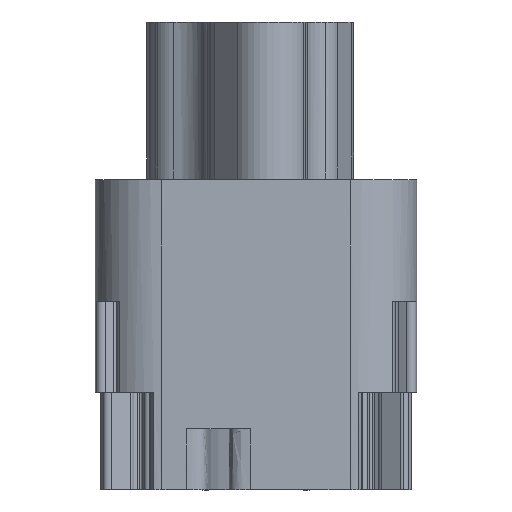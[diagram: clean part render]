
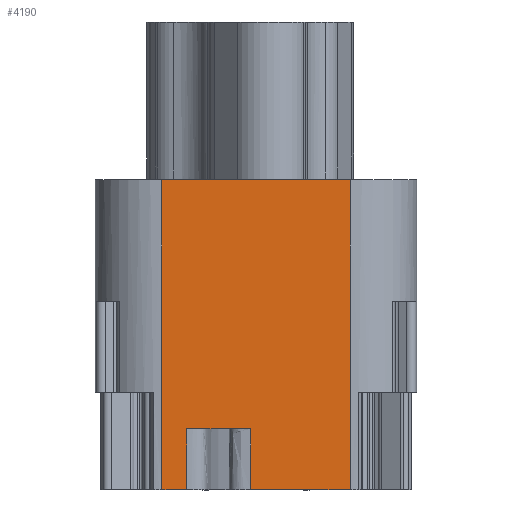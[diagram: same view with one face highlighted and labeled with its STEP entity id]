
A CAD part, top view. The second image highlights one B-rep face of the part: STEP entity #4190.
In plain terms, the highlighted planar face has unit normal (0, 0, 1).
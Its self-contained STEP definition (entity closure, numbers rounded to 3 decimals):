
#220 = FACE_OUTER_BOUND ( 'NONE', #10550, .T. ) ;
#430 = EDGE_CURVE ( 'NONE', #10977, #3288, #11350, .T. ) ;
#561 = CARTESIAN_POINT ( 'NONE',  ( 3.1, 0., 3.99 ) ) ;
#686 = VECTOR ( 'NONE', #3280, 1000. ) ;
#713 = CARTESIAN_POINT ( 'NONE',  ( -0.179, 0., 3.99 ) ) ;
#1158 = ORIENTED_EDGE ( 'NONE', *, *, #430, .T. ) ;
#1629 = CARTESIAN_POINT ( 'NONE',  ( -2.284, 0.667, 3.99 ) ) ;
#1700 = EDGE_CURVE ( 'NONE', #7493, #3288, #5730, .T. ) ;
#1898 = EDGE_CURVE ( 'NONE', #7623, #4850, #7380, .T. ) ;
#2241 = VECTOR ( 'NONE', #11040, 1000. ) ;
#2386 = VECTOR ( 'NONE', #3296, 1000. ) ;
#2415 = CARTESIAN_POINT ( 'NONE',  ( 0., 0., 3.99 ) ) ;
#2467 = CARTESIAN_POINT ( 'NONE',  ( -1.597, 2., 3.99 ) ) ;
#2483 = ORIENTED_EDGE ( 'NONE', *, *, #2953, .F. ) ;
#2667 = CARTESIAN_POINT ( 'NONE',  ( -3.1, 9., 3.99 ) ) ;
#2807 = CARTESIAN_POINT ( 'NONE',  ( -0.179, 2., 3.99 ) ) ;
#2953 = EDGE_CURVE ( 'NONE', #10977, #11436, #5834, .T. ) ;
#3280 = DIRECTION ( 'NONE',  ( -1., 0., 0. ) ) ;
#3288 = VERTEX_POINT ( 'NONE', #8010 ) ;
#3296 = DIRECTION ( 'NONE',  ( 1., 0., 0. ) ) ;
#3593 = CARTESIAN_POINT ( 'NONE',  ( -0.179, 0.667, 3.99 ) ) ;
#4045 = AXIS2_PLACEMENT_3D ( 'NONE', #10475, #8685, #5045 ) ;
#4095 = CARTESIAN_POINT ( 'NONE',  ( 3.1, 10.2, 3.99 ) ) ;
#4177 = ORIENTED_EDGE ( 'NONE', *, *, #1898, .T. ) ;
#4190 = ADVANCED_FACE ( 'NONE', ( #220 ), #10315, .T. ) ;
#4303 = VECTOR ( 'NONE', #9413, 1000. ) ;
#4386 = CARTESIAN_POINT ( 'NONE',  ( -3.1, 10.2, 3.99 ) ) ;
#4500 = LINE ( 'NONE', #2467, #2386 ) ;
#4618 = DIRECTION ( 'NONE',  ( -1., 0., 0. ) ) ;
#4646 = CARTESIAN_POINT ( 'NONE',  ( -0.179, 1.333, 3.99 ) ) ;
#4850 = VERTEX_POINT ( 'NONE', #713 ) ;
#4886 = EDGE_CURVE ( 'NONE', #8246, #7623, #4500, .T. ) ;
#5045 = DIRECTION ( 'NONE',  ( 1., 0., 0. ) ) ;
#5258 = B_SPLINE_CURVE_WITH_KNOTS ( 'NONE', 3,
 ( #10807, #1629, #8802, #5431 ),
 .UNSPECIFIED., .F., .F.,
 ( 4, 4 ),
 ( 0., 1. ),
 .UNSPECIFIED. ) ;
#5431 = CARTESIAN_POINT ( 'NONE',  ( -2.284, 2., 3.99 ) ) ;
#5730 = LINE ( 'NONE', #2415, #686 ) ;
#5827 = CARTESIAN_POINT ( 'NONE',  ( -0.179, 2., 3.99 ) ) ;
#5834 = LINE ( 'NONE', #4095, #4303 ) ;
#6091 = VERTEX_POINT ( 'NONE', #561 ) ;
#6640 = EDGE_CURVE ( 'NONE', #11436, #6091, #11214, .T. ) ;
#6668 = ORIENTED_EDGE ( 'NONE', *, *, #6640, .F. ) ;
#6894 = CARTESIAN_POINT ( 'NONE',  ( 3.1, 10.2, 3.99 ) ) ;
#7380 = B_SPLINE_CURVE_WITH_KNOTS ( 'NONE', 3,
 ( #2807, #4646, #3593, #8128 ),
 .UNSPECIFIED., .F., .F.,
 ( 4, 4 ),
 ( 0., 1. ),
 .UNSPECIFIED. ) ;
#7417 = ORIENTED_EDGE ( 'NONE', *, *, #4886, .T. ) ;
#7423 = VECTOR ( 'NONE', #4618, 1000. ) ;
#7493 = VERTEX_POINT ( 'NONE', #10097 ) ;
#7587 = CARTESIAN_POINT ( 'NONE',  ( 3.1, 9., 3.99 ) ) ;
#7623 = VERTEX_POINT ( 'NONE', #5827 ) ;
#8010 = CARTESIAN_POINT ( 'NONE',  ( -3.1, 0., 3.99 ) ) ;
#8128 = CARTESIAN_POINT ( 'NONE',  ( -0.179, 0., 3.99 ) ) ;
#8241 = ORIENTED_EDGE ( 'NONE', *, *, #1700, .F. ) ;
#8246 = VERTEX_POINT ( 'NONE', #8527 ) ;
#8437 = EDGE_CURVE ( 'NONE', #7493, #8246, #5258, .T. ) ;
#8527 = CARTESIAN_POINT ( 'NONE',  ( -2.284, 2., 3.99 ) ) ;
#8597 = EDGE_CURVE ( 'NONE', #6091, #4850, #9808, .T. ) ;
#8685 = DIRECTION ( 'NONE',  ( 0., 0., 1. ) ) ;
#8802 = CARTESIAN_POINT ( 'NONE',  ( -2.284, 1.333, 3.99 ) ) ;
#9196 = CARTESIAN_POINT ( 'NONE',  ( 0., 0., 3.99 ) ) ;
#9413 = DIRECTION ( 'NONE',  ( 1., 0., 0. ) ) ;
#9528 = VECTOR ( 'NONE', #9798, 1000. ) ;
#9798 = DIRECTION ( 'NONE',  ( 0., -1., 0. ) ) ;
#9808 = LINE ( 'NONE', #9196, #7423 ) ;
#10097 = CARTESIAN_POINT ( 'NONE',  ( -2.284, 0., 3.99 ) ) ;
#10270 = ORIENTED_EDGE ( 'NONE', *, *, #8597, .F. ) ;
#10315 = PLANE ( 'NONE',  #4045 ) ;
#10475 = CARTESIAN_POINT ( 'NONE',  ( 0., 9., 3.99 ) ) ;
#10550 = EDGE_LOOP ( 'NONE', ( #8241, #11125, #7417, #4177, #10270, #6668, #2483, #1158 ) ) ;
#10807 = CARTESIAN_POINT ( 'NONE',  ( -2.284, 0., 3.99 ) ) ;
#10977 = VERTEX_POINT ( 'NONE', #4386 ) ;
#11040 = DIRECTION ( 'NONE',  ( 0., -1., 0. ) ) ;
#11125 = ORIENTED_EDGE ( 'NONE', *, *, #8437, .T. ) ;
#11214 = LINE ( 'NONE', #7587, #2241 ) ;
#11350 = LINE ( 'NONE', #2667, #9528 ) ;
#11436 = VERTEX_POINT ( 'NONE', #6894 ) ;
